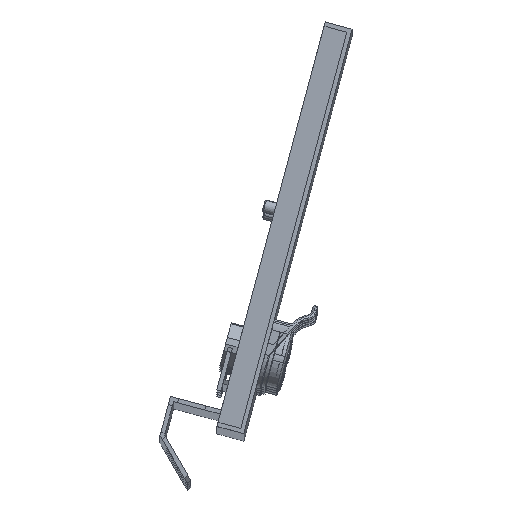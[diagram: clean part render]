
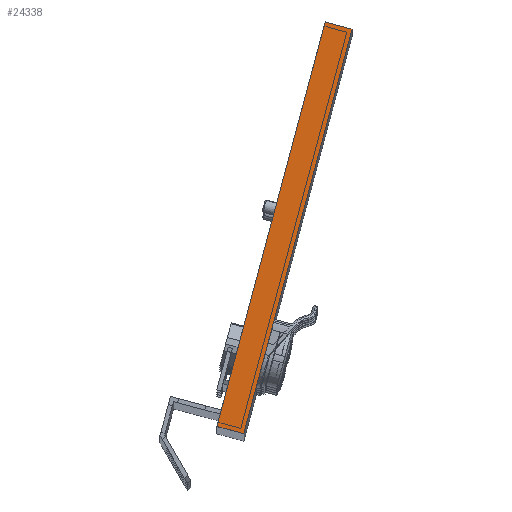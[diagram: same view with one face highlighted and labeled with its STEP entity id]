
A CAD part, top view. The second image highlights one B-rep face of the part: STEP entity #24338.
In plain terms, the highlighted planar face has unit normal (0, 0, 1).
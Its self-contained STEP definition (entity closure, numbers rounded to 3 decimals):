
#821 = CARTESIAN_POINT ( 'NONE',  ( -58.162, -222.343, 1145. ) ) ;
#1269 = ORIENTED_EDGE ( 'NONE', *, *, #4910, .T. ) ;
#2019 = PLANE ( 'NONE',  #28013 ) ;
#3473 = VERTEX_POINT ( 'NONE', #15332 ) ;
#3529 = CARTESIAN_POINT ( 'NONE',  ( -98.856, -312.383, 1145. ) ) ;
#4283 = VECTOR ( 'NONE', #30739, 1000. ) ;
#4571 = DIRECTION ( 'NONE',  ( -1., 0., 0. ) ) ;
#4910 = EDGE_CURVE ( 'NONE', #3473, #30339, #30031, .T. ) ;
#5247 = EDGE_LOOP ( 'NONE', ( #1269, #27662, #25143, #8226 ) ) ;
#5641 = VECTOR ( 'NONE', #27899, 1000. ) ;
#8226 = ORIENTED_EDGE ( 'NONE', *, *, #20467, .F. ) ;
#8550 = EDGE_CURVE ( 'NONE', #20496, #27351, #22997, .T. ) ;
#9982 = FACE_OUTER_BOUND ( 'NONE', #5247, .T. ) ;
#10756 = CARTESIAN_POINT ( 'NONE',  ( -86.298, -315.744, 1145. ) ) ;
#11899 = CARTESIAN_POINT ( 'NONE',  ( -73.645, -218.199, 1145. ) ) ;
#15332 = CARTESIAN_POINT ( 'NONE',  ( -111.509, -409.928, 1145. ) ) ;
#16686 = VECTOR ( 'NONE', #24416, 1000. ) ;
#16877 = EDGE_CURVE ( 'NONE', #30339, #20496, #34540, .T. ) ;
#16911 = CARTESIAN_POINT ( 'NONE',  ( -108.584, -410.711, 1145. ) ) ;
#18095 = DIRECTION ( 'NONE',  ( 0., 0., -1. ) ) ;
#20467 = EDGE_CURVE ( 'NONE', #3473, #27351, #33665, .T. ) ;
#20496 = VERTEX_POINT ( 'NONE', #11899 ) ;
#22742 = VECTOR ( 'NONE', #25693, 1000. ) ;
#22997 = LINE ( 'NONE', #3529, #4283 ) ;
#24338 = ADVANCED_FACE ( 'NONE', ( #9982 ), #2019, .F. ) ;
#24416 = DIRECTION ( 'NONE',  ( 0.259, 0.966, 0. ) ) ;
#24764 = CARTESIAN_POINT ( 'NONE',  ( -61.087, -221.56, 1145. ) ) ;
#25143 = ORIENTED_EDGE ( 'NONE', *, *, #8550, .T. ) ;
#25693 = DIRECTION ( 'NONE',  ( -0.966, 0.259, 0. ) ) ;
#27351 = VERTEX_POINT ( 'NONE', #31901 ) ;
#27662 = ORIENTED_EDGE ( 'NONE', *, *, #16877, .T. ) ;
#27899 = DIRECTION ( 'NONE',  ( -0.966, 0.259, 0. ) ) ;
#28013 = AXIS2_PLACEMENT_3D ( 'NONE', #29266, #18095, #4571 ) ;
#29266 = CARTESIAN_POINT ( 'NONE',  ( -86.298, -315.744, 1145. ) ) ;
#30031 = LINE ( 'NONE', #10756, #16686 ) ;
#30339 = VERTEX_POINT ( 'NONE', #24764 ) ;
#30739 = DIRECTION ( 'NONE',  ( -0.259, -0.966, 0. ) ) ;
#31901 = CARTESIAN_POINT ( 'NONE',  ( -124.067, -406.567, 1145. ) ) ;
#33665 = LINE ( 'NONE', #16911, #5641 ) ;
#34540 = LINE ( 'NONE', #821, #22742 ) ;
